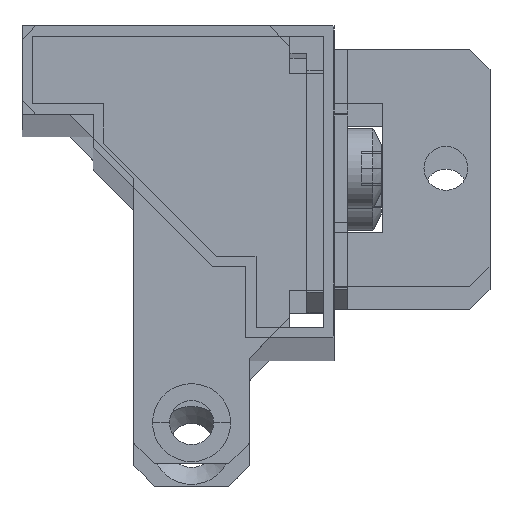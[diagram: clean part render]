
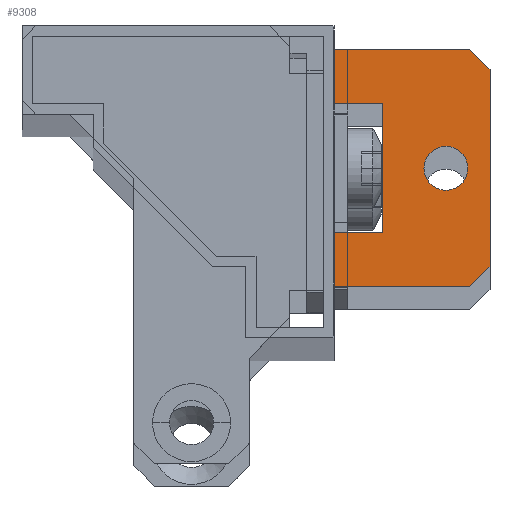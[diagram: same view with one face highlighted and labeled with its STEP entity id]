
A CAD part, top view. The second image highlights one B-rep face of the part: STEP entity #9308.
In plain terms, the highlighted planar face has unit normal (0, 0, 1).
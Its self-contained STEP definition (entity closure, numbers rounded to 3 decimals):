
#12 = DIRECTION ( 'NONE',  ( 0.707, 0.707, 0. ) ) ;
#853 = CARTESIAN_POINT ( 'NONE',  ( 62.5, 25., 964.5 ) ) ;
#1218 = VERTEX_POINT ( 'NONE', #29700 ) ;
#1781 = VERTEX_POINT ( 'NONE', #11400 ) ;
#1885 = VERTEX_POINT ( 'NONE', #16573 ) ;
#1960 = ORIENTED_EDGE ( 'NONE', *, *, #13668, .T. ) ;
#1978 = FACE_BOUND ( 'NONE', #22248, .T. ) ;
#2117 = VERTEX_POINT ( 'NONE', #29941 ) ;
#2364 = VECTOR ( 'NONE', #9577, 1000. ) ;
#2432 = DIRECTION ( 'NONE',  ( -1., 0., 0. ) ) ;
#2605 = VECTOR ( 'NONE', #38165, 1000. ) ;
#2758 = EDGE_CURVE ( 'NONE', #1218, #32685, #13226, .T. ) ;
#3072 = VERTEX_POINT ( 'NONE', #15041 ) ;
#3449 = EDGE_CURVE ( 'NONE', #3072, #10312, #30201, .T. ) ;
#3588 = VERTEX_POINT ( 'NONE', #6651 ) ;
#3770 = CARTESIAN_POINT ( 'NONE',  ( 50., 15.5, 964.5 ) ) ;
#3827 = EDGE_CURVE ( 'NONE', #2117, #12079, #34147, .T. ) ;
#4659 = CARTESIAN_POINT ( 'NONE',  ( 46., 7.5, 964.5 ) ) ;
#4685 = CARTESIAN_POINT ( 'NONE',  ( 65.75, 25., 964.5 ) ) ;
#4721 = LINE ( 'NONE', #11021, #9558 ) ;
#4845 = VECTOR ( 'NONE', #26745, 1000. ) ;
#5077 = CARTESIAN_POINT ( 'NONE',  ( 49.288, 7.5, 964.5 ) ) ;
#6126 = CARTESIAN_POINT ( 'NONE',  ( 66.394, 42.106, 964.5 ) ) ;
#6421 = ORIENTED_EDGE ( 'NONE', *, *, #3827, .T. ) ;
#6509 = DIRECTION ( 'NONE',  ( 0., 0., 1. ) ) ;
#6651 = CARTESIAN_POINT ( 'NONE',  ( 53.1, 15.5, 964.5 ) ) ;
#7518 = VECTOR ( 'NONE', #12, 1000. ) ;
#7547 = DIRECTION ( 'NONE',  ( 0., 0., 1. ) ) ;
#8056 = FACE_OUTER_BOUND ( 'NONE', #25796, .T. ) ;
#8317 = LINE ( 'NONE', #17626, #14233 ) ;
#8752 = VECTOR ( 'NONE', #16047, 1000. ) ;
#8938 = ORIENTED_EDGE ( 'NONE', *, *, #11694, .T. ) ;
#9308 = ADVANCED_FACE ( 'NONE', ( #1978, #8056 ), #14147, .T. ) ;
#9558 = VECTOR ( 'NONE', #14256, 1000. ) ;
#9577 = DIRECTION ( 'NONE',  ( 0., 1., 0. ) ) ;
#9616 = CARTESIAN_POINT ( 'NONE',  ( 46., 25., 964.5 ) ) ;
#9769 = CARTESIAN_POINT ( 'NONE',  ( 69., 7.5, 964.5 ) ) ;
#10312 = VERTEX_POINT ( 'NONE', #23973 ) ;
#10435 = EDGE_CURVE ( 'NONE', #10312, #1885, #37707, .T. ) ;
#10528 = VERTEX_POINT ( 'NONE', #32024 ) ;
#10967 = CIRCLE ( 'NONE', #21965, 3.25 ) ;
#11021 = CARTESIAN_POINT ( 'NONE',  ( 50., 15.5, 964.5 ) ) ;
#11047 = ORIENTED_EDGE ( 'NONE', *, *, #17471, .F. ) ;
#11400 = CARTESIAN_POINT ( 'NONE',  ( 46., 34.5, 964.5 ) ) ;
#11694 = EDGE_CURVE ( 'NONE', #15328, #24803, #32029, .T. ) ;
#11997 = DIRECTION ( 'NONE',  ( -1., 0., 0. ) ) ;
#12062 = DIRECTION ( 'NONE',  ( 1., 0., 0. ) ) ;
#12079 = VERTEX_POINT ( 'NONE', #25129 ) ;
#12602 = CARTESIAN_POINT ( 'NONE',  ( 50., 42.5, 964.5 ) ) ;
#12672 = ORIENTED_EDGE ( 'NONE', *, *, #3449, .T. ) ;
#13024 = CARTESIAN_POINT ( 'NONE',  ( 69., 39.5, 964.5 ) ) ;
#13226 = LINE ( 'NONE', #9616, #2605 ) ;
#13668 = EDGE_CURVE ( 'NONE', #18372, #1218, #4721, .T. ) ;
#13853 = ORIENTED_EDGE ( 'NONE', *, *, #2758, .T. ) ;
#13932 = CARTESIAN_POINT ( 'NONE',  ( 49.288, 25., 964.5 ) ) ;
#14147 = PLANE ( 'NONE',  #34919 ) ;
#14233 = VECTOR ( 'NONE', #16838, 1000. ) ;
#14256 = DIRECTION ( 'NONE',  ( -1., 0., 0. ) ) ;
#15041 = CARTESIAN_POINT ( 'NONE',  ( 66., 42.5, 964.5 ) ) ;
#15328 = VERTEX_POINT ( 'NONE', #32646 ) ;
#15598 = DIRECTION ( 'NONE',  ( 0., -1., 0. ) ) ;
#15788 = LINE ( 'NONE', #37066, #26873 ) ;
#16047 = DIRECTION ( 'NONE',  ( -1., 0., 0. ) ) ;
#16573 = CARTESIAN_POINT ( 'NONE',  ( 46., 42.5, 964.5 ) ) ;
#16838 = DIRECTION ( 'NONE',  ( 0., 1., 0. ) ) ;
#16986 = DIRECTION ( 'NONE',  ( 0., 0., 1. ) ) ;
#17471 = EDGE_CURVE ( 'NONE', #23220, #27842, #30719, .T. ) ;
#17626 = CARTESIAN_POINT ( 'NONE',  ( 53.1, 34.5, 964.5 ) ) ;
#17738 = EDGE_CURVE ( 'NONE', #2117, #32685, #26953, .T. ) ;
#17771 = EDGE_CURVE ( 'NONE', #1885, #1781, #15788, .T. ) ;
#17947 = ORIENTED_EDGE ( 'NONE', *, *, #20185, .F. ) ;
#18372 = VERTEX_POINT ( 'NONE', #3770 ) ;
#18888 = LINE ( 'NONE', #6126, #36566 ) ;
#19015 = CARTESIAN_POINT ( 'NONE',  ( 45.288, 34.5, 964.5 ) ) ;
#19079 = DIRECTION ( 'NONE',  ( -0.707, 0.707, 0. ) ) ;
#19172 = EDGE_CURVE ( 'NONE', #10528, #34144, #22077, .T. ) ;
#19250 = ORIENTED_EDGE ( 'NONE', *, *, #40128, .F. ) ;
#19731 = CARTESIAN_POINT ( 'NONE',  ( 59.25, 25., 964.5 ) ) ;
#19953 = LINE ( 'NONE', #37986, #31729 ) ;
#20185 = EDGE_CURVE ( 'NONE', #34144, #1781, #33103, .T. ) ;
#20322 = DIRECTION ( 'NONE',  ( -1., 0., 0. ) ) ;
#21290 = LINE ( 'NONE', #27568, #7518 ) ;
#21965 = AXIS2_PLACEMENT_3D ( 'NONE', #853, #7547, #32064 ) ;
#22077 = LINE ( 'NONE', #19015, #28587 ) ;
#22248 = EDGE_LOOP ( 'NONE', ( #11047, #26228 ) ) ;
#22393 = ORIENTED_EDGE ( 'NONE', *, *, #23551, .T. ) ;
#22968 = CARTESIAN_POINT ( 'NONE',  ( 49.288, 34.5, 964.5 ) ) ;
#23220 = VERTEX_POINT ( 'NONE', #19731 ) ;
#23396 = DIRECTION ( 'NONE',  ( 1., 0., 0. ) ) ;
#23551 = EDGE_CURVE ( 'NONE', #24803, #3072, #18888, .T. ) ;
#23875 = DIRECTION ( 'NONE',  ( 0., -1., 0. ) ) ;
#23973 = CARTESIAN_POINT ( 'NONE',  ( 50., 42.5, 964.5 ) ) ;
#24803 = VERTEX_POINT ( 'NONE', #13024 ) ;
#25129 = CARTESIAN_POINT ( 'NONE',  ( 66., 7.5, 964.5 ) ) ;
#25796 = EDGE_LOOP ( 'NONE', ( #8938, #22393, #12672, #28353, #38501, #17947, #33586, #29708, #19250, #1960, #13853, #30623, #6421, #33980 ) ) ;
#26082 = VECTOR ( 'NONE', #2432, 1000. ) ;
#26147 = EDGE_CURVE ( 'NONE', #12079, #15328, #21290, .T. ) ;
#26228 = ORIENTED_EDGE ( 'NONE', *, *, #30933, .F. ) ;
#26745 = DIRECTION ( 'NONE',  ( -1., 0., 0. ) ) ;
#26873 = VECTOR ( 'NONE', #15598, 1000. ) ;
#26953 = LINE ( 'NONE', #5077, #4845 ) ;
#27568 = CARTESIAN_POINT ( 'NONE',  ( 66.394, 7.894, 964.5 ) ) ;
#27842 = VERTEX_POINT ( 'NONE', #4685 ) ;
#28353 = ORIENTED_EDGE ( 'NONE', *, *, #10435, .T. ) ;
#28543 = DIRECTION ( 'NONE',  ( -1., 0., 0. ) ) ;
#28587 = VECTOR ( 'NONE', #28543, 1000. ) ;
#29700 = CARTESIAN_POINT ( 'NONE',  ( 46., 15.5, 964.5 ) ) ;
#29708 = ORIENTED_EDGE ( 'NONE', *, *, #31423, .F. ) ;
#29941 = CARTESIAN_POINT ( 'NONE',  ( 50., 7.5, 964.5 ) ) ;
#30201 = LINE ( 'NONE', #36076, #26082 ) ;
#30501 = CARTESIAN_POINT ( 'NONE',  ( 28.288, 7.5, 964.5 ) ) ;
#30619 = VECTOR ( 'NONE', #20322, 1000. ) ;
#30623 = ORIENTED_EDGE ( 'NONE', *, *, #17738, .F. ) ;
#30719 = CIRCLE ( 'NONE', #39133, 3.25 ) ;
#30933 = EDGE_CURVE ( 'NONE', #27842, #23220, #10967, .T. ) ;
#31053 = CARTESIAN_POINT ( 'NONE',  ( 62.5, 25., 964.5 ) ) ;
#31423 = EDGE_CURVE ( 'NONE', #3588, #10528, #8317, .T. ) ;
#31729 = VECTOR ( 'NONE', #23396, 1000. ) ;
#32024 = CARTESIAN_POINT ( 'NONE',  ( 53.1, 34.5, 964.5 ) ) ;
#32029 = LINE ( 'NONE', #9769, #2364 ) ;
#32064 = DIRECTION ( 'NONE',  ( -1., 0., 0. ) ) ;
#32646 = CARTESIAN_POINT ( 'NONE',  ( 69., 10.5, 964.5 ) ) ;
#32685 = VERTEX_POINT ( 'NONE', #4659 ) ;
#33103 = LINE ( 'NONE', #22968, #30619 ) ;
#33586 = ORIENTED_EDGE ( 'NONE', *, *, #19172, .F. ) ;
#33758 = VECTOR ( 'NONE', #12062, 1000. ) ;
#33980 = ORIENTED_EDGE ( 'NONE', *, *, #26147, .T. ) ;
#34144 = VERTEX_POINT ( 'NONE', #37475 ) ;
#34147 = LINE ( 'NONE', #30501, #33758 ) ;
#34919 = AXIS2_PLACEMENT_3D ( 'NONE', #13932, #16986, #23875 ) ;
#36076 = CARTESIAN_POINT ( 'NONE',  ( 69., 42.5, 964.5 ) ) ;
#36566 = VECTOR ( 'NONE', #19079, 1000. ) ;
#37066 = CARTESIAN_POINT ( 'NONE',  ( 46., 25., 964.5 ) ) ;
#37475 = CARTESIAN_POINT ( 'NONE',  ( 50., 34.5, 964.5 ) ) ;
#37707 = LINE ( 'NONE', #12602, #8752 ) ;
#37986 = CARTESIAN_POINT ( 'NONE',  ( 53.1, 15.5, 964.5 ) ) ;
#38165 = DIRECTION ( 'NONE',  ( 0., -1., 0. ) ) ;
#38501 = ORIENTED_EDGE ( 'NONE', *, *, #17771, .T. ) ;
#39133 = AXIS2_PLACEMENT_3D ( 'NONE', #31053, #6509, #11997 ) ;
#40128 = EDGE_CURVE ( 'NONE', #18372, #3588, #19953, .T. ) ;
